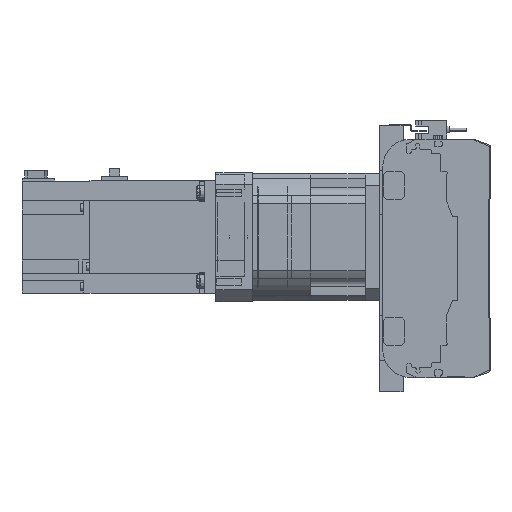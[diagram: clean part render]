
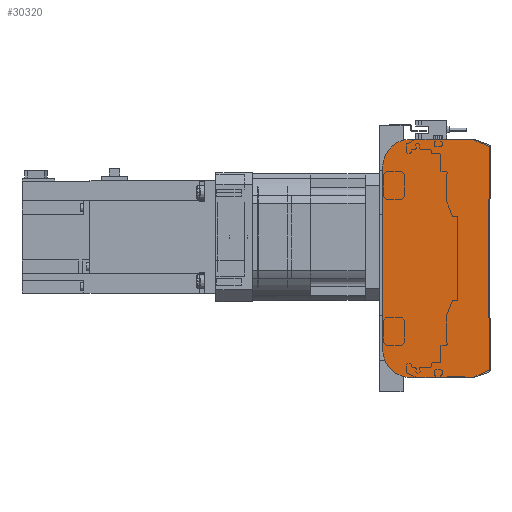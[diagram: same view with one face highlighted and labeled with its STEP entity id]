
A CAD part, left-side view. The second image highlights one B-rep face of the part: STEP entity #30320.
In plain terms, the highlighted planar face has unit normal (-1, 0, 0).
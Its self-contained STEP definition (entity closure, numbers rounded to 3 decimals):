
#2460=CIRCLE('',#33145,2.);
#2461=CIRCLE('',#33148,2.);
#2462=CIRCLE('',#33151,20.);
#2463=CIRCLE('',#33154,20.);
#8637=ORIENTED_EDGE('',*,*,#14737,.F.);
#8638=ORIENTED_EDGE('',*,*,#14815,.F.);
#8639=ORIENTED_EDGE('',*,*,#14813,.F.);
#8640=ORIENTED_EDGE('',*,*,#14811,.F.);
#8641=ORIENTED_EDGE('',*,*,#14459,.F.);
#8642=ORIENTED_EDGE('',*,*,#14810,.F.);
#8643=ORIENTED_EDGE('',*,*,#14808,.F.);
#8644=ORIENTED_EDGE('',*,*,#14806,.F.);
#8645=ORIENTED_EDGE('',*,*,#14804,.F.);
#8646=ORIENTED_EDGE('',*,*,#14802,.F.);
#14459=EDGE_CURVE('',#17819,#17820,#20355,.T.);
#14737=EDGE_CURVE('',#17891,#17892,#20469,.T.);
#14802=EDGE_CURVE('',#17892,#17933,#20514,.T.);
#14804=EDGE_CURVE('',#17933,#17934,#2460,.T.);
#14806=EDGE_CURVE('',#17934,#17935,#20517,.T.);
#14808=EDGE_CURVE('',#17935,#17936,#2461,.T.);
#14810=EDGE_CURVE('',#17936,#17819,#20520,.T.);
#14811=EDGE_CURVE('',#17820,#17937,#2462,.T.);
#14813=EDGE_CURVE('',#17937,#17938,#20522,.T.);
#14815=EDGE_CURVE('',#17938,#17891,#2463,.T.);
#17819=VERTEX_POINT('',#51655);
#17820=VERTEX_POINT('',#51657);
#17891=VERTEX_POINT('',#52058);
#17892=VERTEX_POINT('',#52060);
#17933=VERTEX_POINT('',#52190);
#17934=VERTEX_POINT('',#52194);
#17935=VERTEX_POINT('',#52198);
#17936=VERTEX_POINT('',#52202);
#17937=VERTEX_POINT('',#52208);
#17938=VERTEX_POINT('',#52212);
#20355=LINE('',#51656,#22766);
#20469=LINE('',#52059,#22880);
#20514=LINE('',#52189,#22925);
#20517=LINE('',#52197,#22928);
#20520=LINE('',#52205,#22931);
#20522=LINE('',#52211,#22933);
#22766=VECTOR('',#40057,1000.);
#22880=VECTOR('',#40605,1000.);
#22925=VECTOR('',#40738,1000.);
#22928=VECTOR('',#40747,1000.);
#22931=VECTOR('',#40756,1000.);
#22933=VECTOR('',#40764,1000.);
#24816=EDGE_LOOP('',(#8637,#8638,#8639,#8640,#8641,#8642,#8643,#8644,#8645,
#8646));
#27331=FACE_BOUND('',#24816,.T.);
#28870=PLANE('',#33156);
#30320=ADVANCED_FACE('',(#27331),#28870,.F.);
#33145=AXIS2_PLACEMENT_3D('',#52193,#40742,#40743);
#33148=AXIS2_PLACEMENT_3D('',#52201,#40751,#40752);
#33151=AXIS2_PLACEMENT_3D('',#52207,#40759,#40760);
#33154=AXIS2_PLACEMENT_3D('',#52215,#40768,#40769);
#33156=AXIS2_PLACEMENT_3D('',#52217,#40772,#40773);
#40057=DIRECTION('',(0.,1.,0.));
#40605=DIRECTION('',(0.,-1.,0.));
#40738=DIRECTION('',(0.,-0.913,-0.408));
#40742=DIRECTION('',(1.,0.,0.));
#40743=DIRECTION('',(0.,0.,-1.));
#40747=DIRECTION('',(0.,0.,-1.));
#40751=DIRECTION('',(1.,0.,0.));
#40752=DIRECTION('',(0.,0.,-1.));
#40756=DIRECTION('',(0.,0.913,-0.408));
#40759=DIRECTION('',(1.,0.,0.));
#40760=DIRECTION('',(0.,0.,-1.));
#40764=DIRECTION('',(0.,0.,1.));
#40768=DIRECTION('',(1.,0.,0.));
#40769=DIRECTION('',(0.,0.,-1.));
#40772=DIRECTION('',(1.,0.,0.));
#40773=DIRECTION('',(0.,0.,-1.));
#51655=CARTESIAN_POINT('',(0.,12.33,-85.));
#51656=CARTESIAN_POINT('',(0.,12.33,-85.));
#51657=CARTESIAN_POINT('',(0.,56.5,-85.));
#52058=CARTESIAN_POINT('',(0.,56.5,85.));
#52059=CARTESIAN_POINT('',(0.,56.5,85.));
#52060=CARTESIAN_POINT('',(0.,12.33,85.));
#52189=CARTESIAN_POINT('',(0.,12.33,85.));
#52190=CARTESIAN_POINT('',(0.,1.684,80.239));
#52193=CARTESIAN_POINT('',(0.,2.5,78.413));
#52194=CARTESIAN_POINT('',(0.,0.5,78.413));
#52197=CARTESIAN_POINT('',(0.,0.5,78.413));
#52198=CARTESIAN_POINT('',(0.,0.5,-78.413));
#52201=CARTESIAN_POINT('',(0.,2.5,-78.413));
#52202=CARTESIAN_POINT('',(0.,1.684,-80.239));
#52205=CARTESIAN_POINT('',(0.,1.684,-80.239));
#52207=CARTESIAN_POINT('',(0.,56.5,-65.));
#52208=CARTESIAN_POINT('',(0.,76.5,-65.));
#52211=CARTESIAN_POINT('',(0.,76.5,-65.));
#52212=CARTESIAN_POINT('',(0.,76.5,65.));
#52215=CARTESIAN_POINT('',(0.,56.5,65.));
#52217=CARTESIAN_POINT('',(0.,2.5,78.413));
